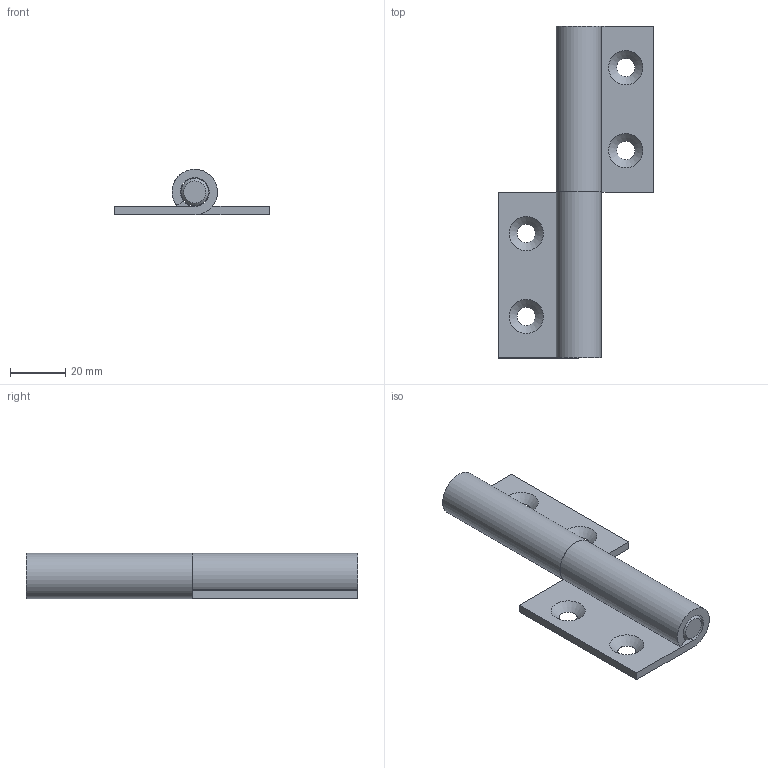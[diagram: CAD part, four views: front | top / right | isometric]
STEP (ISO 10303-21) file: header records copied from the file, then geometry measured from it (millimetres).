
FILE_DESCRIPTION(/* description */ ('Unknown'),/* implementation_level */ '2;1');
FILE_NAME(/* name */ 'F28795',/* time_stamp */ '2017-02-28T14:28:36+01:00',/* author */ ('Unknown'),/* organization */ ('Unknown'),/* preprocessor_version */ 'ST-DEVELOPER v16',/* originating_system */ 'DEX',/* authorisation */ $);
FILE_SCHEMA (('AUTOMOTIVE_DESIGN {1 0 10303 214 3 1 1}'));
Length unit declared in the file: millimetre
Products named in the file (4): Scharnier; Scharnierteil-1; Stift; Scharnierteil-2
Assembly tree (3 placements, depth 2):
  Scharnier
    Scharnierteil-1
    Stift
    Scharnierteil-2
Bounding box: 56 x 120 x 16.4 mm (x, y, z)
Volume: 31562 mm3; surface area: 20605.2 mm2
Topology: 3 solids, 3 shells, 29 faces, 72 edges, 49 vertices
Faces by surface type: plane 14, cylinder 9, cone 6
Full cylindrical faces by diameter (mm): 6.6 x4, 10 x1
Entity records: 855 total; most frequent: DIRECTION 142, CARTESIAN_POINT 125, ORIENTED_EDGE 104, AXIS2_PLACEMENT_3D 57, EDGE_CURVE 52, EDGE_LOOP 48, FACE_BOUND 48, VERTEX_POINT 40
